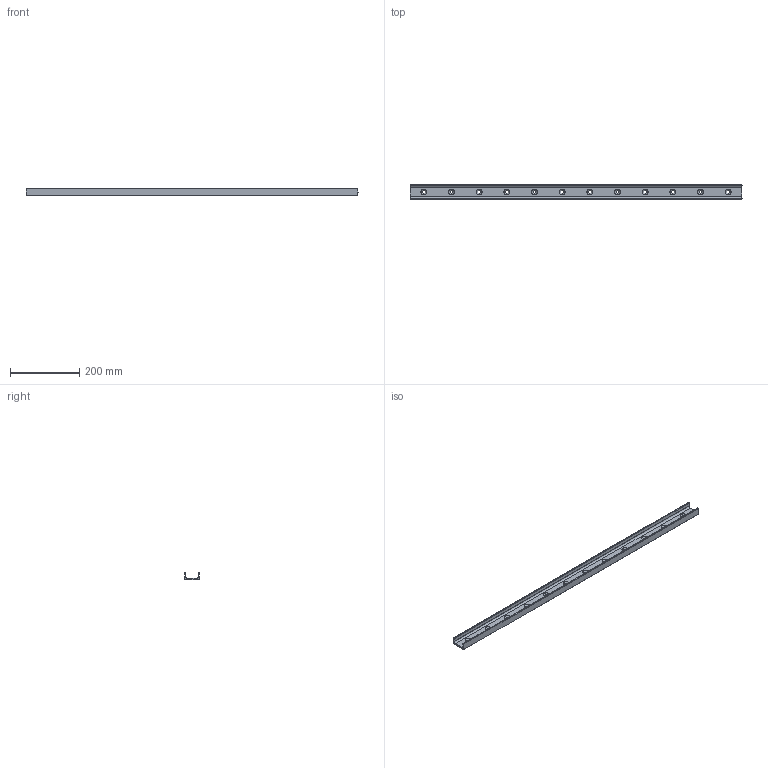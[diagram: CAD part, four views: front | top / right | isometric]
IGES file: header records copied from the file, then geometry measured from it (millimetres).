
Start section: SolidWorks IGES file using analytic representation for surfaces
Global section: file name: C:\Users\IanO\Desktop\43\L1943.ULV43_v2_20180121_IGES\L1943.ULV43-0960.igs; native system: SolidWorks 2017; preprocessor: SolidWorks 2017; author: IanO; date: 190121.085958; units: millimetre
Bounding box: 960 x 43 x 21 mm (x, y, z)
Surface area: 149389.5 mm2 (no closed solid volume)
Topology: 0 solids, 0 shells, 74 faces, 1254 edges, 1254 vertices
Faces by surface type: revolution 61, bspline 13
